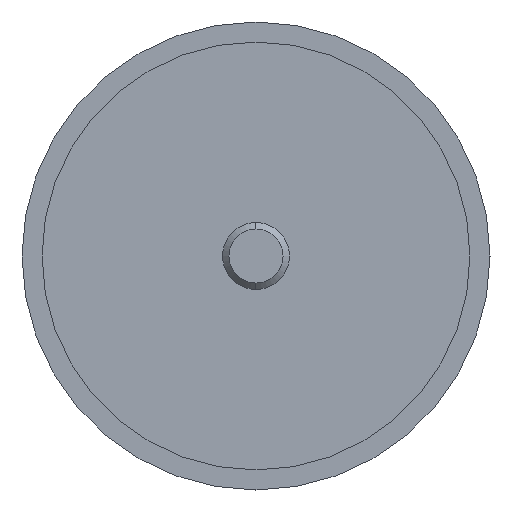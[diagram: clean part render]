
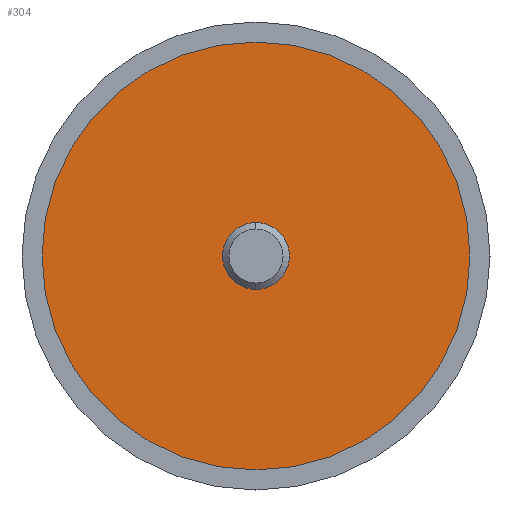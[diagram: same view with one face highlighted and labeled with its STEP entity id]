
A CAD part, left-side view. The second image highlights one B-rep face of the part: STEP entity #304.
In plain terms, the highlighted planar face has unit normal (-1, 0, 0).
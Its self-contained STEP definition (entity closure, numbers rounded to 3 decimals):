
#5 = DIRECTION ( 'NONE',  ( -1., 0., 0. ) ) ;
#23 = ORIENTED_EDGE ( 'NONE', *, *, #643, .T. ) ;
#31 = ORIENTED_EDGE ( 'NONE', *, *, #666, .F. ) ;
#41 = EDGE_LOOP ( 'NONE', ( #171, #23 ) ) ;
#56 = CARTESIAN_POINT ( 'NONE',  ( -22.49, 0., 0. ) ) ;
#72 = DIRECTION ( 'NONE',  ( 0., 0., 1. ) ) ;
#118 = VERTEX_POINT ( 'NONE', #369 ) ;
#119 = DIRECTION ( 'NONE',  ( 0., 0., -1. ) ) ;
#122 = CARTESIAN_POINT ( 'NONE',  ( -22.49, 0., 0. ) ) ;
#133 = CARTESIAN_POINT ( 'NONE',  ( -22.49, 0., -5. ) ) ;
#137 = EDGE_CURVE ( 'NONE', #118, #190, #266, .T. ) ;
#147 = DIRECTION ( 'NONE',  ( 0., 0., 1. ) ) ;
#171 = ORIENTED_EDGE ( 'NONE', *, *, #220, .T. ) ;
#190 = VERTEX_POINT ( 'NONE', #133 ) ;
#210 = CIRCLE ( 'NONE', #593, 5. ) ;
#220 = EDGE_CURVE ( 'NONE', #562, #455, #548, .T. ) ;
#221 = AXIS2_PLACEMENT_3D ( 'NONE', #556, #293, #561 ) ;
#249 = CARTESIAN_POINT ( 'NONE',  ( -22.49, 0., 0. ) ) ;
#266 = CIRCLE ( 'NONE', #596, 5. ) ;
#293 = DIRECTION ( 'NONE',  ( 1., 0., 0. ) ) ;
#304 = ADVANCED_FACE ( 'NONE', ( #665, #394 ), #616, .F. ) ;
#311 = CARTESIAN_POINT ( 'NONE',  ( -22.49, 0., 0. ) ) ;
#330 = DIRECTION ( 'NONE',  ( -1., 0., 0. ) ) ;
#369 = CARTESIAN_POINT ( 'NONE',  ( -22.49, 0., 5. ) ) ;
#394 = FACE_BOUND ( 'NONE', #547, .T. ) ;
#411 = DIRECTION ( 'NONE',  ( -1., 0., 0. ) ) ;
#422 = CIRCLE ( 'NONE', #498, 32. ) ;
#455 = VERTEX_POINT ( 'NONE', #590 ) ;
#468 = AXIS2_PLACEMENT_3D ( 'NONE', #122, #330, #72 ) ;
#473 = DIRECTION ( 'NONE',  ( 0., 0., -1. ) ) ;
#498 = AXIS2_PLACEMENT_3D ( 'NONE', #249, #411, #147 ) ;
#534 = DIRECTION ( 'NONE',  ( -1., 0., 0. ) ) ;
#547 = EDGE_LOOP ( 'NONE', ( #605, #31 ) ) ;
#548 = CIRCLE ( 'NONE', #468, 32. ) ;
#556 = CARTESIAN_POINT ( 'NONE',  ( -22.49, 32., 0. ) ) ;
#561 = DIRECTION ( 'NONE',  ( 0., 0., -1. ) ) ;
#562 = VERTEX_POINT ( 'NONE', #634 ) ;
#590 = CARTESIAN_POINT ( 'NONE',  ( -22.49, 0., -32. ) ) ;
#593 = AXIS2_PLACEMENT_3D ( 'NONE', #56, #534, #119 ) ;
#596 = AXIS2_PLACEMENT_3D ( 'NONE', #311, #5, #473 ) ;
#605 = ORIENTED_EDGE ( 'NONE', *, *, #137, .F. ) ;
#616 = PLANE ( 'NONE',  #221 ) ;
#634 = CARTESIAN_POINT ( 'NONE',  ( -22.49, 0., 32. ) ) ;
#643 = EDGE_CURVE ( 'NONE', #455, #562, #422, .T. ) ;
#665 = FACE_OUTER_BOUND ( 'NONE', #41, .T. ) ;
#666 = EDGE_CURVE ( 'NONE', #190, #118, #210, .T. ) ;
